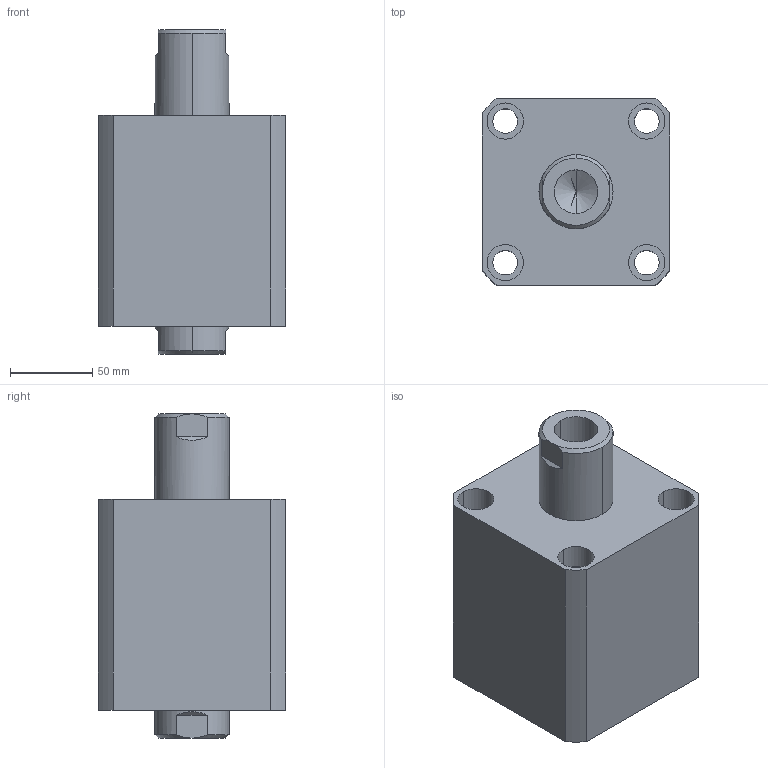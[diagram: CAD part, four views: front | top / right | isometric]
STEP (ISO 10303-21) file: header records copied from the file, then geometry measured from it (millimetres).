
FILE_DESCRIPTION (( 'STEP AP214' ), '1' );
FILE_NAME ('chtb-sw80x35n_asm.STEP', '2018-05-28T00:47:35', ( 'Windows' ), ( 'Microsoft' ), 'SwSTEP 2.0', 'SolidWorks 2015', '' );
FILE_SCHEMA (( 'AUTOMOTIVE_DESIGN' ));
Length unit declared in the file: millimetre
Products named in the file (4): CHTB-SW80X35NBT; CHTB-SD80X35NHSG; CHTB-SD80QG; chtb-sw80x35n_asm
Assembly tree (3 placements, depth 2):
  chtb-sw80x35n_asm
    CHTB-SD80QG
    CHTB-SD80X35NHSG
    CHTB-SW80X35NBT
Bounding box: 114 x 114 x 197 mm (x, y, z)
Volume: 1452835.1 mm3; surface area: 210249.9 mm2
Topology: 3 solids, 3 shells, 208 faces, 550 edges, 365 vertices
Faces by surface type: cylinder 109, plane 42, cone 25, torus 18, bspline 14
Entity records: 15645 total; most frequent: CARTESIAN_POINT 10539, ORIENTED_EDGE 1084, DIRECTION 970, EDGE_CURVE 542, AXIS2_PLACEMENT_3D 407, VERTEX_POINT 365, EDGE_LOOP 249, ADVANCED_FACE 208
